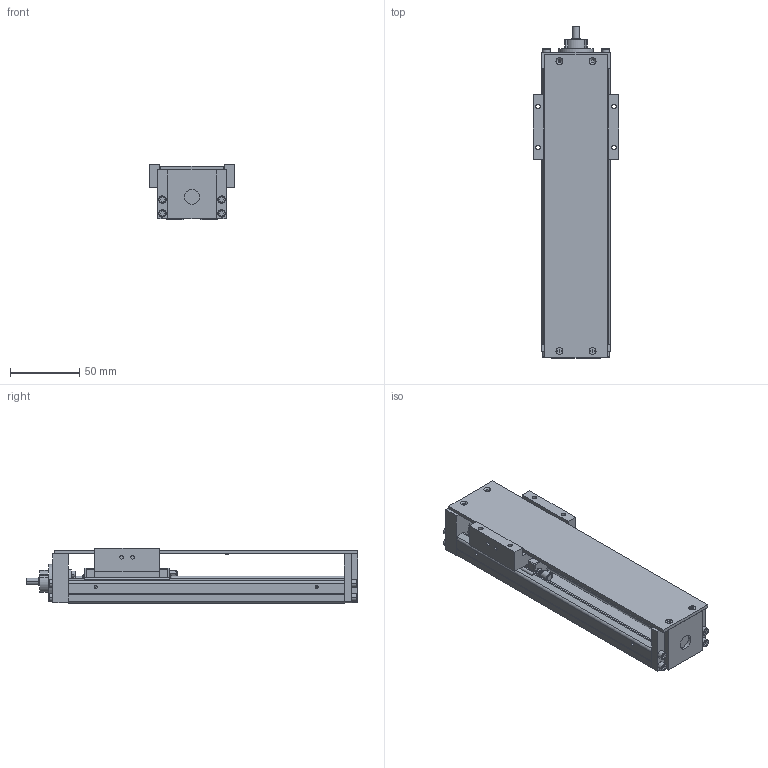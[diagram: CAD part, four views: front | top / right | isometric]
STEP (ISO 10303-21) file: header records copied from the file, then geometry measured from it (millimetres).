
FILE_DESCRIPTION(('no description'),'unknown implementation level');
FILE_NAME('KK5002P200A1H0C00_FILE_17.stp',' ',('HIWIN GmbH'),('CADClick - KiM GmbH - www.kimweb.de'),'unknown preprocess','ACIS','unknown authorization');
FILE_SCHEMA(('automotive_design'));
Length unit declared in the file: millimetre
Products named in the file (2): KK50_FILE; KK5002P200A1H0C00_FILE
Bounding box: 62 x 240.5 x 40 mm (x, y, z)
Volume: 232247.7 mm3; surface area: 89743.5 mm2
Topology: 2 solids, 14 shells, 798 faces, 1984 edges, 1257 vertices
Faces by surface type: plane 473, cylinder 225, cone 58, torus 42
Entity records: 46502 total; most frequent: CARTESIAN_POINT 4579, DIRECTION 4152, STYLED_ITEM 4015, PRESENTATION_STYLE_ASSIGNMENT 4015, COLOUR_RGB 4015, ORIENTED_EDGE 3916, EDGE_CURVE 1958, CURVE_STYLE 1958
